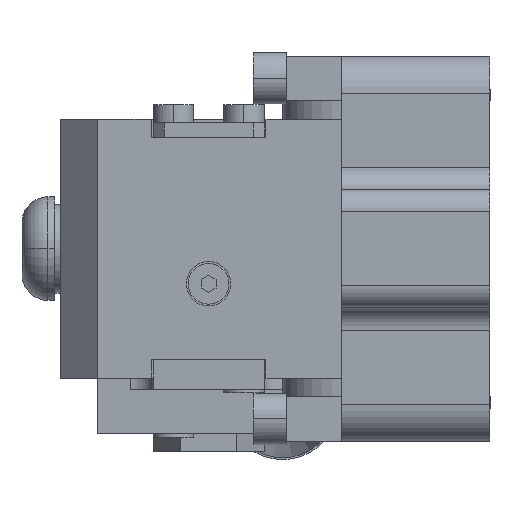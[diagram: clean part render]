
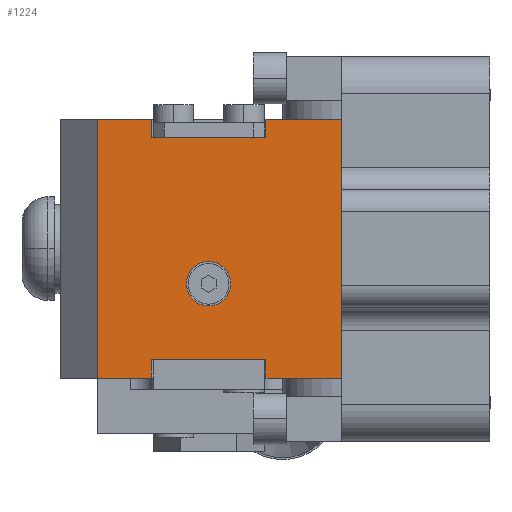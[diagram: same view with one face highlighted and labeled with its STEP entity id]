
A CAD part, left-side view. The second image highlights one B-rep face of the part: STEP entity #1224.
In plain terms, the highlighted planar face has unit normal (-1, 0, 0).
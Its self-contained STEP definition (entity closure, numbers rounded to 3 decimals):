
#8 = DIRECTION ( 'NONE',  ( 0., 1., 0. ) ) ;
#17 = DIRECTION ( 'NONE',  ( -1., 0., 0. ) ) ;
#32 = CARTESIAN_POINT ( 'NONE',  ( -28., 18., -4.75 ) ) ;
#133 = DIRECTION ( 'NONE',  ( 1., 0., 0. ) ) ;
#234 = CARTESIAN_POINT ( 'NONE',  ( -28., 33., 17.5 ) ) ;
#272 = ORIENTED_EDGE ( 'NONE', *, *, #5819, .T. ) ;
#449 = DIRECTION ( 'NONE',  ( 0., -1., 0. ) ) ;
#467 = CARTESIAN_POINT ( 'NONE',  ( -28., 25.75, 15. ) ) ;
#484 = LINE ( 'NONE', #467, #8064 ) ;
#661 = PLANE ( 'NONE',  #4049 ) ;
#765 = DIRECTION ( 'NONE',  ( 0., -1., 0. ) ) ;
#862 = VERTEX_POINT ( 'NONE', #10607 ) ;
#960 = VERTEX_POINT ( 'NONE', #7548 ) ;
#1188 = CARTESIAN_POINT ( 'NONE',  ( -28., -9., 17.5 ) ) ;
#1224 = ADVANCED_FACE ( 'NONE', ( #6249, #6146 ), #661, .F. ) ;
#1328 = ORIENTED_EDGE ( 'NONE', *, *, #12160, .F. ) ;
#1803 = DIRECTION ( 'NONE',  ( 0., 1., 0. ) ) ;
#2122 = ORIENTED_EDGE ( 'NONE', *, *, #3803, .F. ) ;
#2288 = EDGE_CURVE ( 'NONE', #4377, #5599, #10013, .T. ) ;
#2295 = DIRECTION ( 'NONE',  ( 0., 0., -1. ) ) ;
#2307 = EDGE_CURVE ( 'NONE', #960, #862, #9965, .T. ) ;
#2311 = CARTESIAN_POINT ( 'NONE',  ( -28., 10.25, 25. ) ) ;
#2329 = LINE ( 'NONE', #2311, #12325 ) ;
#2439 = CARTESIAN_POINT ( 'NONE',  ( -28., 25.75, -15. ) ) ;
#2786 = VERTEX_POINT ( 'NONE', #7427 ) ;
#2948 = VERTEX_POINT ( 'NONE', #6351 ) ;
#2967 = ORIENTED_EDGE ( 'NONE', *, *, #8541, .F. ) ;
#3106 = VERTEX_POINT ( 'NONE', #5607 ) ;
#3327 = VERTEX_POINT ( 'NONE', #4386 ) ;
#3562 = CARTESIAN_POINT ( 'NONE',  ( -28., -9., 17.5 ) ) ;
#3803 = EDGE_CURVE ( 'NONE', #4697, #4531, #484, .T. ) ;
#4049 = AXIS2_PLACEMENT_3D ( 'NONE', #234, #133, #1803 ) ;
#4113 = LINE ( 'NONE', #2439, #11899 ) ;
#4118 = ORIENTED_EDGE ( 'NONE', *, *, #14501, .F. ) ;
#4223 = VECTOR ( 'NONE', #8900, 1000. ) ;
#4361 = EDGE_CURVE ( 'NONE', #862, #5278, #11925, .T. ) ;
#4377 = VERTEX_POINT ( 'NONE', #11884 ) ;
#4386 = CARTESIAN_POINT ( 'NONE',  ( -28., 10.25, -17.5 ) ) ;
#4402 = CARTESIAN_POINT ( 'NONE',  ( -28., 10.25, -15. ) ) ;
#4531 = VERTEX_POINT ( 'NONE', #10146 ) ;
#4676 = EDGE_CURVE ( 'NONE', #3327, #3106, #9361, .T. ) ;
#4697 = VERTEX_POINT ( 'NONE', #9203 ) ;
#4741 = VECTOR ( 'NONE', #14792, 1000. ) ;
#4763 = CIRCLE ( 'NONE', #14977, 3. ) ;
#4814 = VERTEX_POINT ( 'NONE', #8062 ) ;
#5172 = VERTEX_POINT ( 'NONE', #5931 ) ;
#5233 = ORIENTED_EDGE ( 'NONE', *, *, #4361, .T. ) ;
#5248 = DIRECTION ( 'NONE',  ( 0., 0., -1. ) ) ;
#5250 = CARTESIAN_POINT ( 'NONE',  ( -28., 33., 17.5 ) ) ;
#5278 = VERTEX_POINT ( 'NONE', #5455 ) ;
#5281 = LINE ( 'NONE', #5250, #10480 ) ;
#5319 = EDGE_CURVE ( 'NONE', #5172, #960, #5281, .T. ) ;
#5455 = CARTESIAN_POINT ( 'NONE',  ( -28., 25.75, -15. ) ) ;
#5482 = VERTEX_POINT ( 'NONE', #4402 ) ;
#5595 = CIRCLE ( 'NONE', #14462, 3. ) ;
#5599 = VERTEX_POINT ( 'NONE', #3562 ) ;
#5607 = CARTESIAN_POINT ( 'NONE',  ( -28., -9., -17.5 ) ) ;
#5697 = ORIENTED_EDGE ( 'NONE', *, *, #2307, .T. ) ;
#5819 = EDGE_CURVE ( 'NONE', #4377, #4531, #2329, .T. ) ;
#5931 = CARTESIAN_POINT ( 'NONE',  ( -28., 33., 17.5 ) ) ;
#6146 = FACE_BOUND ( 'NONE', #6784, .T. ) ;
#6166 = LINE ( 'NONE', #1188, #4741 ) ;
#6249 = FACE_OUTER_BOUND ( 'NONE', #6708, .T. ) ;
#6252 = EDGE_CURVE ( 'NONE', #2948, #2786, #4763, .T. ) ;
#6351 = CARTESIAN_POINT ( 'NONE',  ( -28., 15., -4.75 ) ) ;
#6708 = EDGE_LOOP ( 'NONE', ( #272, #2122, #1328, #2967, #10246, #5697, #5233, #11806, #13076, #14171, #8808, #13051 ) ) ;
#6784 = EDGE_LOOP ( 'NONE', ( #4118, #12583 ) ) ;
#7427 = CARTESIAN_POINT ( 'NONE',  ( -28., 21., -4.75 ) ) ;
#7548 = CARTESIAN_POINT ( 'NONE',  ( -28., 33., -17.5 ) ) ;
#7888 = EDGE_CURVE ( 'NONE', #3327, #5482, #13154, .T. ) ;
#8062 = CARTESIAN_POINT ( 'NONE',  ( -28., 25.75, 17.5 ) ) ;
#8064 = VECTOR ( 'NONE', #449, 1000. ) ;
#8541 = EDGE_CURVE ( 'NONE', #5172, #4814, #8915, .T. ) ;
#8718 = VECTOR ( 'NONE', #11913, 1000. ) ;
#8808 = ORIENTED_EDGE ( 'NONE', *, *, #10098, .F. ) ;
#8900 = DIRECTION ( 'NONE',  ( 0., -1., 0. ) ) ;
#8901 = CARTESIAN_POINT ( 'NONE',  ( -28., 33., 17.5 ) ) ;
#8915 = LINE ( 'NONE', #8901, #4223 ) ;
#9203 = CARTESIAN_POINT ( 'NONE',  ( -28., 25.75, 15. ) ) ;
#9345 = DIRECTION ( 'NONE',  ( 0., -1., 0. ) ) ;
#9360 = CARTESIAN_POINT ( 'NONE',  ( -28., 33., -17.5 ) ) ;
#9361 = LINE ( 'NONE', #9360, #12202 ) ;
#9797 = VECTOR ( 'NONE', #9976, 1000. ) ;
#9880 = DIRECTION ( 'NONE',  ( 0., -1., 0. ) ) ;
#9906 = CARTESIAN_POINT ( 'NONE',  ( -28., 33., -17.5 ) ) ;
#9965 = LINE ( 'NONE', #9906, #11889 ) ;
#9976 = DIRECTION ( 'NONE',  ( 0., -1., 0. ) ) ;
#9990 = CARTESIAN_POINT ( 'NONE',  ( -28., 33., 17.5 ) ) ;
#10013 = LINE ( 'NONE', #9990, #9797 ) ;
#10025 = VECTOR ( 'NONE', #11853, 1000. ) ;
#10098 = EDGE_CURVE ( 'NONE', #5599, #3106, #6166, .T. ) ;
#10146 = CARTESIAN_POINT ( 'NONE',  ( -28., 10.25, 15. ) ) ;
#10246 = ORIENTED_EDGE ( 'NONE', *, *, #5319, .T. ) ;
#10480 = VECTOR ( 'NONE', #5248, 1000. ) ;
#10607 = CARTESIAN_POINT ( 'NONE',  ( -28., 25.75, -17.5 ) ) ;
#10648 = DIRECTION ( 'NONE',  ( 0., 1., 0. ) ) ;
#11806 = ORIENTED_EDGE ( 'NONE', *, *, #15205, .T. ) ;
#11853 = DIRECTION ( 'NONE',  ( 0., 0., -1. ) ) ;
#11884 = CARTESIAN_POINT ( 'NONE',  ( -28., 10.25, 17.5 ) ) ;
#11889 = VECTOR ( 'NONE', #9880, 1000. ) ;
#11899 = VECTOR ( 'NONE', #765, 1000. ) ;
#11913 = DIRECTION ( 'NONE',  ( 0., 0., 1. ) ) ;
#11915 = CARTESIAN_POINT ( 'NONE',  ( -28., 25.75, -25. ) ) ;
#11925 = LINE ( 'NONE', #11915, #8718 ) ;
#12068 = DIRECTION ( 'NONE',  ( -1., 0., 0. ) ) ;
#12160 = EDGE_CURVE ( 'NONE', #4814, #4697, #14877, .T. ) ;
#12202 = VECTOR ( 'NONE', #9345, 1000. ) ;
#12325 = VECTOR ( 'NONE', #2295, 1000. ) ;
#12583 = ORIENTED_EDGE ( 'NONE', *, *, #6252, .F. ) ;
#13051 = ORIENTED_EDGE ( 'NONE', *, *, #2288, .F. ) ;
#13076 = ORIENTED_EDGE ( 'NONE', *, *, #7888, .F. ) ;
#13109 = DIRECTION ( 'NONE',  ( 0., 0., 1. ) ) ;
#13126 = CARTESIAN_POINT ( 'NONE',  ( -28., 10.25, -25. ) ) ;
#13154 = LINE ( 'NONE', #13126, #13341 ) ;
#13341 = VECTOR ( 'NONE', #13109, 1000. ) ;
#13351 = CARTESIAN_POINT ( 'NONE',  ( -28., 25.75, 25. ) ) ;
#13555 = CARTESIAN_POINT ( 'NONE',  ( -28., 18., -4.75 ) ) ;
#14171 = ORIENTED_EDGE ( 'NONE', *, *, #4676, .T. ) ;
#14462 = AXIS2_PLACEMENT_3D ( 'NONE', #13555, #12068, #10648 ) ;
#14501 = EDGE_CURVE ( 'NONE', #2786, #2948, #5595, .T. ) ;
#14792 = DIRECTION ( 'NONE',  ( 0., 0., -1. ) ) ;
#14877 = LINE ( 'NONE', #13351, #10025 ) ;
#14977 = AXIS2_PLACEMENT_3D ( 'NONE', #32, #17, #8 ) ;
#15205 = EDGE_CURVE ( 'NONE', #5278, #5482, #4113, .T. ) ;
